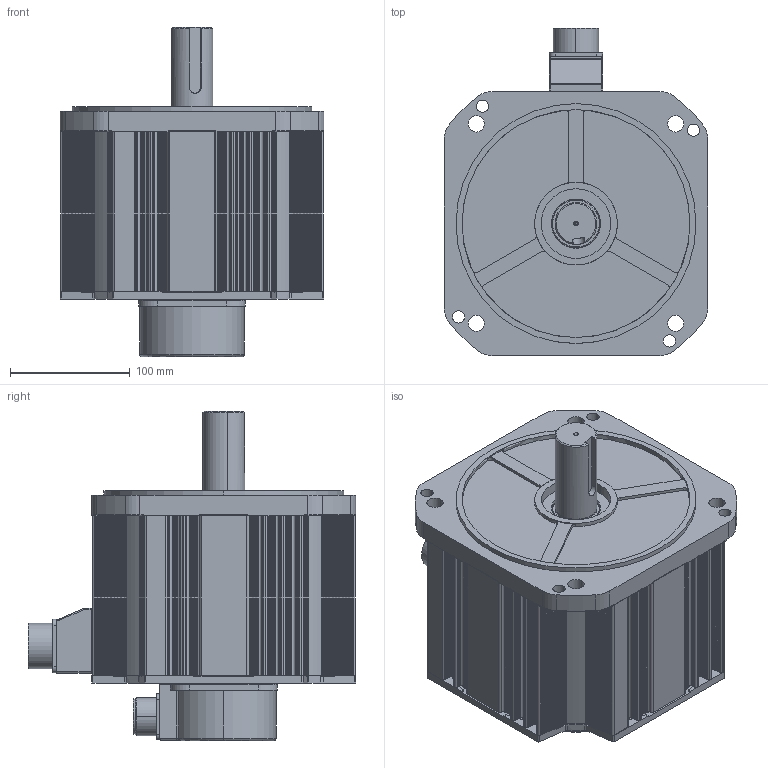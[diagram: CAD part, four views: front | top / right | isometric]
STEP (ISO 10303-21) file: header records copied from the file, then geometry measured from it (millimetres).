
FILE_DESCRIPTION (( 'STEP AP203' ), '1' );
FILE_NAME ('KANF-55G¡à9B2.STEP', '2026-09-12T00:54:27', ( '' ), ( '' ), 'SwSTEP 2.0', 'SolidWorks 2023', '' );
FILE_SCHEMA (( 'CONFIG_CONTROL_DESIGN' ));
Length unit declared in the file: millimetre
Products named in the file (11): □220-136.0mm(5.5kW,BR); 1005053102 ENCODER COVER; Ø35-KEY10X50; 10050532 GASKET_미돌출형; MS3102A 24-11P_표준; 10050908 CONNECTOR BOX_MS22 or MS24; MS3102A 20-29P; □220 BRACKET_BR; 10050907 RUBBER SEAL_MS22 or MS24; □220 FLANGE; KANF-55G□9B2
Assembly tree (10 placements, depth 2):
  KANF-55G□9B2
    □220 FLANGE
    □220 BRACKET_BR
    10050532 GASKET_미돌출형
    1005053102 ENCODER COVER
    MS3102A 20-29P
    10050907 RUBBER SEAL_MS22 or MS24
    10050908 CONNECTOR BOX_MS22 or MS24
    MS3102A 24-11P_표준
    Ø35-KEY10X50
    □220-136.0mm(5.5kW,BR)
Bounding box: 220 x 273.12 x 274.5 mm (x, y, z)
Volume: 1824585.4 mm3; surface area: 619061.1 mm2
Topology: 10 solids, 10 shells, 2020 faces, 5772 edges, 3812 vertices
Faces by surface type: plane 1184, cylinder 732, cone 54, bspline 35, torus 13, sphere 2
Entity records: 68895 total; most frequent: CARTESIAN_POINT 13760, ORIENTED_EDGE 11492, DIRECTION 11204, EDGE_CURVE 5746, LINE 3982, VECTOR 3982, VERTEX_POINT 3812, AXIS2_PLACEMENT_3D 3611
